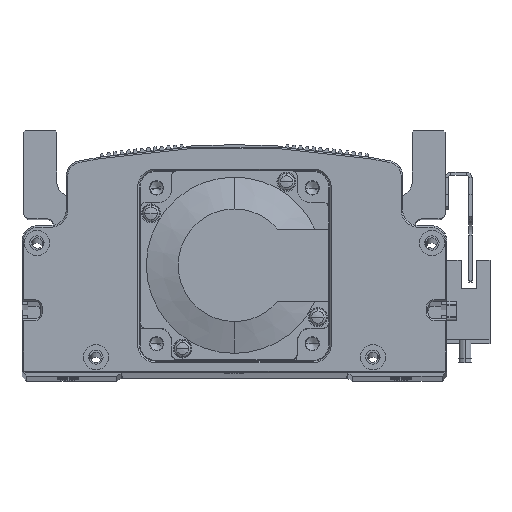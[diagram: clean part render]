
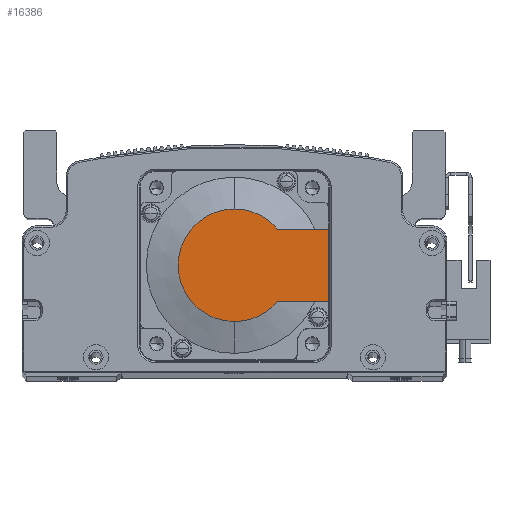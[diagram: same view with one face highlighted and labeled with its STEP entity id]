
A CAD part, top view. The second image highlights one B-rep face of the part: STEP entity #16386.
In plain terms, the highlighted planar face has unit normal (0, 0, 1) as drawn and (-1, 0, 0) by its records, which use the part's own axes.
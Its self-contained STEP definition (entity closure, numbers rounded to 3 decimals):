
#153 = DIRECTION ( 'NONE',  ( -1., 0., 0. ) ) ;
#1163 = CARTESIAN_POINT ( 'NONE',  ( -118.5, 0., 0. ) ) ;
#1713 = EDGE_CURVE ( 'NONE', #26890, #15478, #66698, .T. ) ;
#3373 = AXIS2_PLACEMENT_3D ( 'NONE', #63982, #58605, #15663 ) ;
#4006 = CIRCLE ( 'NONE', #6237, 17.881 ) ;
#5019 = FACE_OUTER_BOUND ( 'NONE', #56763, .T. ) ;
#5917 = CARTESIAN_POINT ( 'NONE',  ( -118.5, 0., 11.45 ) ) ;
#6237 = AXIS2_PLACEMENT_3D ( 'NONE', #1163, #49214, #49460 ) ;
#7322 = VECTOR ( 'NONE', #31114, 1000. ) ;
#7793 = CIRCLE ( 'NONE', #50982, 17.881 ) ;
#8442 = AXIS2_PLACEMENT_3D ( 'NONE', #63891, #153, #47731 ) ;
#9168 = VERTEX_POINT ( 'NONE', #10746 ) ;
#10173 = ORIENTED_EDGE ( 'NONE', *, *, #56063, .T. ) ;
#10276 = VERTEX_POINT ( 'NONE', #16194 ) ;
#10746 = CARTESIAN_POINT ( 'NONE',  ( -118.5, 30., -11.45 ) ) ;
#11850 = DIRECTION ( 'NONE',  ( 0., 0., -1. ) ) ;
#12436 = ORIENTED_EDGE ( 'NONE', *, *, #31759, .T. ) ;
#12799 = CARTESIAN_POINT ( 'NONE',  ( -118.5, 13.735, 11.45 ) ) ;
#14225 = VERTEX_POINT ( 'NONE', #12799 ) ;
#15478 = VERTEX_POINT ( 'NONE', #24808 ) ;
#15663 = DIRECTION ( 'NONE',  ( 0., 0., 1. ) ) ;
#16194 = CARTESIAN_POINT ( 'NONE',  ( -118.5, 0., 17.881 ) ) ;
#16386 = ADVANCED_FACE ( 'NONE', ( #5019 ), #37127, .T. ) ;
#16965 = CARTESIAN_POINT ( 'NONE',  ( -118.5, 0., 0. ) ) ;
#22259 = VERTEX_POINT ( 'NONE', #65469 ) ;
#23349 = EDGE_CURVE ( 'NONE', #22259, #14225, #27629, .T. ) ;
#24808 = CARTESIAN_POINT ( 'NONE',  ( -118.5, 0., -17.881 ) ) ;
#26147 = EDGE_CURVE ( 'NONE', #9168, #22259, #26538, .T. ) ;
#26538 = LINE ( 'NONE', #68256, #7322 ) ;
#26890 = VERTEX_POINT ( 'NONE', #60412 ) ;
#27629 = LINE ( 'NONE', #5917, #38442 ) ;
#28290 = EDGE_CURVE ( 'NONE', #9168, #26890, #32430, .T. ) ;
#28586 = ORIENTED_EDGE ( 'NONE', *, *, #1713, .T. ) ;
#31114 = DIRECTION ( 'NONE',  ( 0., 0., 1. ) ) ;
#31759 = EDGE_CURVE ( 'NONE', #15478, #10276, #7793, .T. ) ;
#32430 = LINE ( 'NONE', #43713, #41596 ) ;
#37127 = PLANE ( 'NONE',  #3373 ) ;
#38080 = DIRECTION ( 'NONE',  ( 0., -1., 0. ) ) ;
#38442 = VECTOR ( 'NONE', #38080, 1000. ) ;
#38964 = ORIENTED_EDGE ( 'NONE', *, *, #23349, .F. ) ;
#41596 = VECTOR ( 'NONE', #49552, 1000. ) ;
#43713 = CARTESIAN_POINT ( 'NONE',  ( -118.5, -8.941, -11.45 ) ) ;
#46654 = ORIENTED_EDGE ( 'NONE', *, *, #26147, .F. ) ;
#47731 = DIRECTION ( 'NONE',  ( 0., 0., -1. ) ) ;
#49214 = DIRECTION ( 'NONE',  ( -1., 0., 0. ) ) ;
#49460 = DIRECTION ( 'NONE',  ( 0., 0., -1. ) ) ;
#49552 = DIRECTION ( 'NONE',  ( 0., -1., 0. ) ) ;
#50982 = AXIS2_PLACEMENT_3D ( 'NONE', #16965, #59936, #11850 ) ;
#56063 = EDGE_CURVE ( 'NONE', #10276, #14225, #4006, .T. ) ;
#56763 = EDGE_LOOP ( 'NONE', ( #56924, #28586, #12436, #10173, #38964, #46654 ) ) ;
#56924 = ORIENTED_EDGE ( 'NONE', *, *, #28290, .T. ) ;
#58605 = DIRECTION ( 'NONE',  ( -1., 0., 0. ) ) ;
#59936 = DIRECTION ( 'NONE',  ( -1., 0., 0. ) ) ;
#60412 = CARTESIAN_POINT ( 'NONE',  ( -118.5, 13.735, -11.45 ) ) ;
#63891 = CARTESIAN_POINT ( 'NONE',  ( -118.5, 0., 0. ) ) ;
#63982 = CARTESIAN_POINT ( 'NONE',  ( -118.5, -8.941, 0. ) ) ;
#65469 = CARTESIAN_POINT ( 'NONE',  ( -118.5, 30., 11.45 ) ) ;
#66698 = CIRCLE ( 'NONE', #8442, 17.881 ) ;
#68256 = CARTESIAN_POINT ( 'NONE',  ( -118.5, 30., 25. ) ) ;
